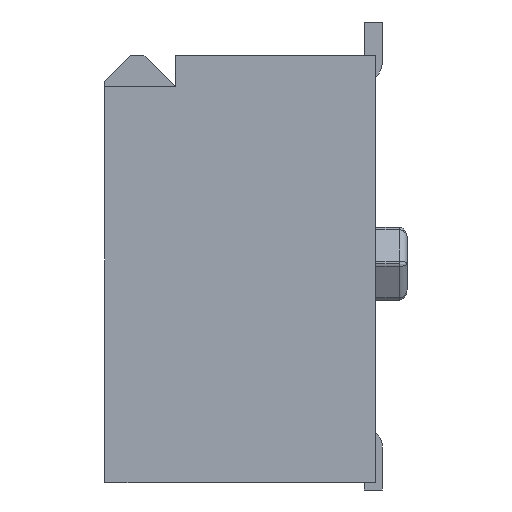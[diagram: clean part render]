
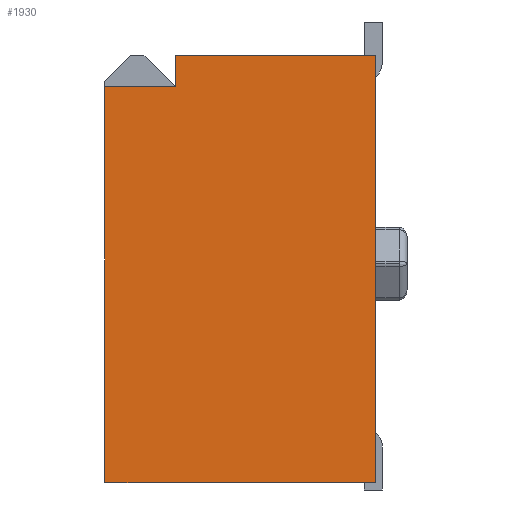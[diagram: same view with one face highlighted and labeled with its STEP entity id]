
A CAD part, left-side view. The second image highlights one B-rep face of the part: STEP entity #1930.
In plain terms, the highlighted planar face has unit normal (-1, 0, 0).
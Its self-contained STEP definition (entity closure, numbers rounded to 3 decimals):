
#389 = CARTESIAN_POINT ( 'NONE',  ( -5.5, 0., 0. ) ) ;
#430 = VECTOR ( 'NONE', #4638, 1000. ) ;
#518 = CARTESIAN_POINT ( 'NONE',  ( -5.5, 5.25, -0.6 ) ) ;
#742 = ORIENTED_EDGE ( 'NONE', *, *, #1386, .F. ) ;
#801 = AXIS2_PLACEMENT_3D ( 'NONE', #7165, #7770, #4147 ) ;
#1386 = EDGE_CURVE ( 'NONE', #3169, #7491, #4155, .T. ) ;
#1517 = EDGE_CURVE ( 'NONE', #6216, #7491, #3187, .T. ) ;
#1778 = VECTOR ( 'NONE', #7779, 1000. ) ;
#1831 = ORIENTED_EDGE ( 'NONE', *, *, #2637, .F. ) ;
#1841 = LINE ( 'NONE', #389, #430 ) ;
#1930 = ADVANCED_FACE ( 'NONE', ( #2337 ), #2919, .T. ) ;
#2337 = FACE_OUTER_BOUND ( 'NONE', #6494, .T. ) ;
#2454 = DIRECTION ( 'NONE',  ( 0., 1., 0. ) ) ;
#2637 = EDGE_CURVE ( 'NONE', #4110, #2765, #1841, .T. ) ;
#2737 = ORIENTED_EDGE ( 'NONE', *, *, #1517, .T. ) ;
#2765 = VERTEX_POINT ( 'NONE', #2910 ) ;
#2814 = DIRECTION ( 'NONE',  ( 0., 0., -1. ) ) ;
#2910 = CARTESIAN_POINT ( 'NONE',  ( -5.5, 0.05, 0. ) ) ;
#2919 = PLANE ( 'NONE',  #801 ) ;
#3118 = LINE ( 'NONE', #7663, #5802 ) ;
#3169 = VERTEX_POINT ( 'NONE', #6077 ) ;
#3187 = LINE ( 'NONE', #7458, #1778 ) ;
#3354 = VERTEX_POINT ( 'NONE', #6320 ) ;
#3428 = LINE ( 'NONE', #7501, #6478 ) ;
#3502 = EDGE_CURVE ( 'NONE', #2765, #3354, #3118, .T. ) ;
#3675 = CARTESIAN_POINT ( 'NONE',  ( -5.5, 5.25, -8.2 ) ) ;
#3807 = LINE ( 'NONE', #3675, #5250 ) ;
#4110 = VERTEX_POINT ( 'NONE', #7450 ) ;
#4147 = DIRECTION ( 'NONE',  ( 0., 0., 1. ) ) ;
#4155 = LINE ( 'NONE', #5278, #5565 ) ;
#4638 = DIRECTION ( 'NONE',  ( 0., -1., 0. ) ) ;
#4658 = DIRECTION ( 'NONE',  ( 0., 0., 1. ) ) ;
#5250 = VECTOR ( 'NONE', #2454, 1000. ) ;
#5278 = CARTESIAN_POINT ( 'NONE',  ( -5.5, 5.25, -7.5 ) ) ;
#5565 = VECTOR ( 'NONE', #4658, 1000. ) ;
#5719 = DIRECTION ( 'NONE',  ( 0., 0., -1. ) ) ;
#5802 = VECTOR ( 'NONE', #2814, 1000. ) ;
#6077 = CARTESIAN_POINT ( 'NONE',  ( -5.5, 5.25, -8.2 ) ) ;
#6131 = CARTESIAN_POINT ( 'NONE',  ( -5.5, 3.9, -0.6 ) ) ;
#6216 = VERTEX_POINT ( 'NONE', #6131 ) ;
#6320 = CARTESIAN_POINT ( 'NONE',  ( -5.5, 0.05, -8.2 ) ) ;
#6478 = VECTOR ( 'NONE', #5719, 1000. ) ;
#6494 = EDGE_LOOP ( 'NONE', ( #7715, #6598, #1831, #7108, #2737, #742 ) ) ;
#6598 = ORIENTED_EDGE ( 'NONE', *, *, #3502, .F. ) ;
#6670 = EDGE_CURVE ( 'NONE', #3354, #3169, #3807, .T. ) ;
#7108 = ORIENTED_EDGE ( 'NONE', *, *, #7199, .T. ) ;
#7165 = CARTESIAN_POINT ( 'NONE',  ( -5.5, 0., -7.5 ) ) ;
#7199 = EDGE_CURVE ( 'NONE', #4110, #6216, #3428, .T. ) ;
#7450 = CARTESIAN_POINT ( 'NONE',  ( -5.5, 3.9, 0. ) ) ;
#7458 = CARTESIAN_POINT ( 'NONE',  ( -5.5, 3.9, -0.6 ) ) ;
#7491 = VERTEX_POINT ( 'NONE', #518 ) ;
#7501 = CARTESIAN_POINT ( 'NONE',  ( -5.5, 3.9, 0. ) ) ;
#7663 = CARTESIAN_POINT ( 'NONE',  ( -5.5, 0.05, -2.451 ) ) ;
#7715 = ORIENTED_EDGE ( 'NONE', *, *, #6670, .F. ) ;
#7770 = DIRECTION ( 'NONE',  ( -1., 0., 0. ) ) ;
#7779 = DIRECTION ( 'NONE',  ( 0., 1., 0. ) ) ;
